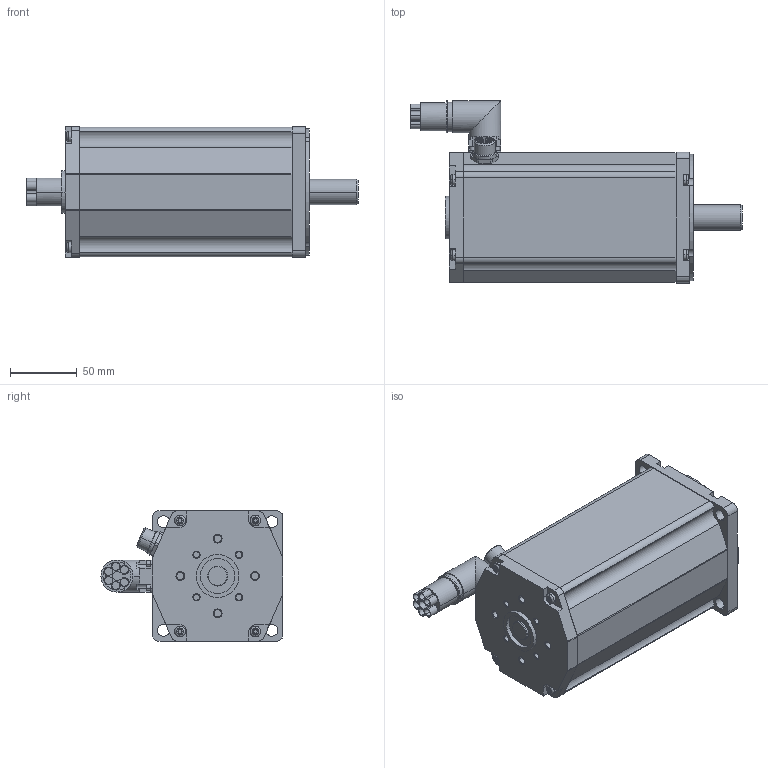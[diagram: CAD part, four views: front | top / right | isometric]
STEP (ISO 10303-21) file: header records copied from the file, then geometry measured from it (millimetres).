
FILE_DESCRIPTION((''),'2;1');
FILE_NAME('8859502000_DUMMY','2015-10-26T',('Assist01-TES.DKM'),(''),'PRO/ENGINEER BY PARAMETRIC TECHNOLOGY CORPORATION, 2010480','PRO/ENGINEER BY PARAMETRIC TECHNOLOGY CORPORATION, 2010480','');
FILE_SCHEMA(('AUTOMOTIVE_DESIGN_CC2 { 1 2 10303 214 -1 1 5 2 }'));
Length unit declared in the file: millimetre
Products named in the file (1): 8859502000_DUMMY
Bounding box: 249 x 136.5 x 98 mm (x, y, z)
Volume: 1550823.9 mm3; surface area: 98862.1 mm2
Topology: 1 solids, 1 shells, 517 faces, 1362 edges, 912 vertices
Faces by surface type: cylinder 268, plane 185, cone 24, bspline 24, torus 16
Entity records: 17257 total; most frequent: CARTESIAN_POINT 3541, DIRECTION 3098, ORIENTED_EDGE 2724, EDGE_CURVE 1362, AXIS2_PLACEMENT_3D 1247, VERTEX_POINT 912, CIRCLE 754, VECTOR 604
